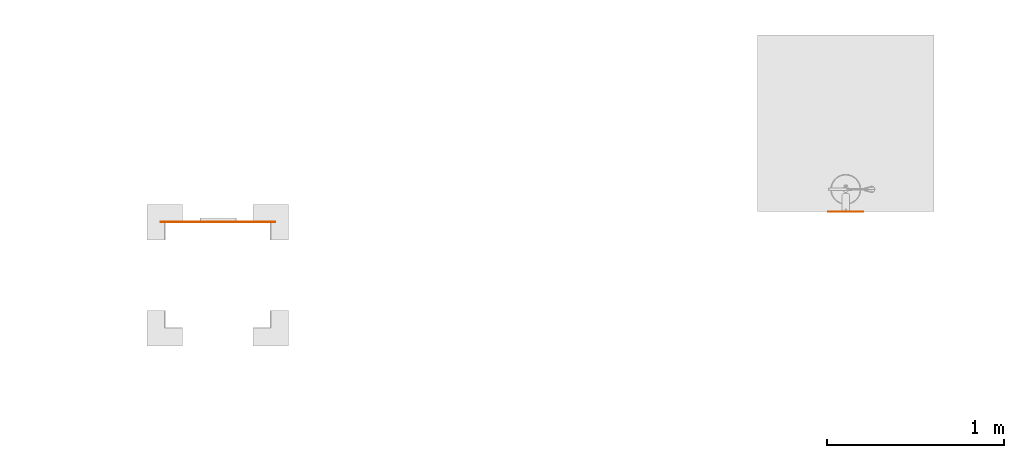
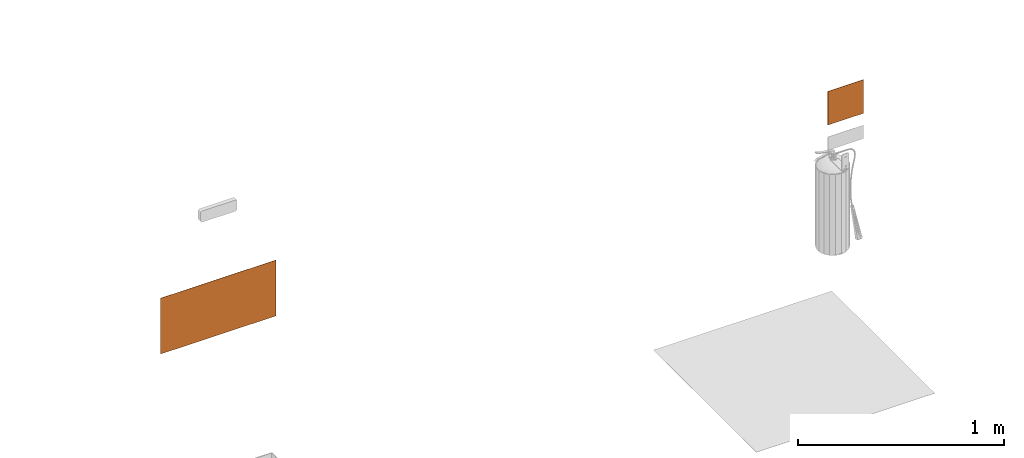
# One storey, part 75 of 119: 2 proxies.
"""IFC2X3 building model written with IfcOpenShell, lengths in metres."""

from ifc_helpers import new_model, entity, si_unit, converted_unit, derived_unit, direction, frame, frame_2d, origin, origin_2d_with_axis, place, context, subcontext, project, spatial, polyline, circle_curve, parameter, trimmed, segment, composite_curve, rectangle, outline, extrude, source, transform, mapped, material, material_list, type_object, type_shapes, element, save


model = new_model("IFC2X3")

# Units and contexts
model_context = context("Model", 3, precision=1e-05, world=origin(), true_north=direction((6.12303176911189e-17, 1.0)))
body_context = subcontext(model_context, "Body", "Model", "MODEL_VIEW")
ifc_project = project(units=[si_unit("LENGTHUNIT", "METRE"), si_unit("AREAUNIT", "SQUARE_METRE"), si_unit("VOLUMEUNIT", "CUBIC_METRE"), converted_unit("PLANEANGLEUNIT", "DEGREE", entity("IfcRatioMeasure", 0.0174532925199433), si_unit("PLANEANGLEUNIT", "RADIAN"), dimensions=[0, 0, 0, 0, 0, 0, 0]), si_unit("MASSUNIT", "GRAM", prefix="KILO"), derived_unit("MASSDENSITYUNIT", [(si_unit("MASSUNIT", "GRAM", prefix="KILO"), 1), (si_unit("LENGTHUNIT", "METRE"), -3)]), derived_unit("MOMENTOFINERTIAUNIT", [(si_unit("LENGTHUNIT", "METRE"), 4)]), si_unit("TIMEUNIT", "SECOND"), si_unit("FREQUENCYUNIT", "HERTZ"), si_unit("THERMODYNAMICTEMPERATUREUNIT", "DEGREE_CELSIUS"), derived_unit("THERMALTRANSMITTANCEUNIT", [(si_unit("MASSUNIT", "GRAM", prefix="KILO"), 1), (si_unit("THERMODYNAMICTEMPERATUREUNIT", "KELVIN"), -1), (si_unit("TIMEUNIT", "SECOND"), -3)]), derived_unit("VOLUMETRICFLOWRATEUNIT", [(si_unit("LENGTHUNIT", "METRE"), 3), (si_unit("TIMEUNIT", "SECOND"), -1)]), si_unit("ELECTRICCURRENTUNIT", "AMPERE"), si_unit("ELECTRICVOLTAGEUNIT", "VOLT"), si_unit("POWERUNIT", "WATT"), si_unit("FORCEUNIT", "NEWTON", prefix="KILO"), si_unit("ILLUMINANCEUNIT", "LUX"), si_unit("LUMINOUSFLUXUNIT", "LUMEN"), si_unit("LUMINOUSINTENSITYUNIT", "CANDELA"), derived_unit("USERDEFINED", [(si_unit("MASSUNIT", "GRAM", prefix="KILO"), -1), (si_unit("LENGTHUNIT", "METRE"), -2), (si_unit("TIMEUNIT", "SECOND"), 3), (si_unit("LUMINOUSFLUXUNIT", "LUMEN"), 1)]), derived_unit("LINEARVELOCITYUNIT", [(si_unit("LENGTHUNIT", "METRE"), 1), (si_unit("TIMEUNIT", "SECOND"), -1)]), si_unit("PRESSUREUNIT", "PASCAL"), derived_unit("USERDEFINED", [(si_unit("LENGTHUNIT", "METRE"), -2), (si_unit("MASSUNIT", "GRAM", prefix="KILO"), 1), (si_unit("TIMEUNIT", "SECOND"), -2)]), derived_unit("LINEARFORCEUNIT", [(si_unit("MASSUNIT", "GRAM", prefix="KILO"), 1), (si_unit("LENGTHUNIT", "METRE"), 1), (si_unit("TIMEUNIT", "SECOND"), -2), (si_unit("LENGTHUNIT", "METRE"), -1)]), derived_unit("PLANARFORCEUNIT", [(si_unit("MASSUNIT", "GRAM", prefix="KILO"), 1), (si_unit("LENGTHUNIT", "METRE"), 1), (si_unit("TIMEUNIT", "SECOND"), -2), (si_unit("LENGTHUNIT", "METRE"), -2)])], contexts=[model_context])

# Site, building, storey
site_placement = place(None, origin())
site = spatial("IfcSite", under=ifc_project, at=site_placement, Name="Default", CompositionType="ELEMENT")
building_placement = place(site_placement, origin())
building = spatial("IfcBuilding", under=site, at=building_placement, CompositionType="ELEMENT")
storey_placement = place(building_placement, origin())
storey = spatial("IfcBuildingStorey", under=building, at=storey_placement, Name="PAV. 01 - TÉRREO", CompositionType="ELEMENT", Elevation=0.0)

# Proxies
ifc_material_1 = material(Name="Plastico branco")
ifc_material_2 = material(Name="Plastico vermelho")
ifc_material_list_1 = material_list([ifc_material_1, ifc_material_2])
building_element_proxy_type_1 = type_object("IfcBuildingElementProxyType", Name="Sinalização de equipamentos - E05 - Extintor de incêndio:Distância 08m", PredefinedType="NOTDEFINED", material=ifc_material_1)
shared_shape_1 = source(origin(), body_context, "Body", "SweptSolid", [
    extrude(outline(composite_curve([segment(polyline([(-0.039533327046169, -0.0988107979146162), (0.0136590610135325, -0.0988107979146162)]), True, "CONTINUOUS"), segment(polyline([(0.0136590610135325, -0.0988107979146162), (0.0136590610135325, -0.0150548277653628)]), True, "CONTINUOUS"), segment(polyline([(0.0136590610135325, -0.0150548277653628), (0.0132403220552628, -0.0112272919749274)]), True, "CONTINUOUS"), segment(polyline([(0.0132403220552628, -0.0112272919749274), (0.0119841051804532, -0.00798860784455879)]), True, "CONTINUOUS"), segment(polyline([(0.0119841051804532, -0.00798860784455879), (0.00989041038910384, -0.00533877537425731)]), True, "CONTINUOUS"), segment(polyline([(0.00989041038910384, -0.00533877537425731), (0.00695923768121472, -0.00327779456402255)]), True, "CONTINUOUS"), segment(polyline([(0.00695923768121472, -0.00327779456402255), (0.00319058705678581, -0.00180566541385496)]), True, "CONTINUOUS"), segment(polyline([(0.00319058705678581, -0.00180566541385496), (-0.00141554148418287, -0.000922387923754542)]), True, "CONTINUOUS"), segment(polyline([(-0.00141554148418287, -0.000922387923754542), (-0.00685914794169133, -0.000627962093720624)]), True, "CONTINUOUS"), segment(polyline([(-0.00685914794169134, -0.000627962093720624), (-0.00685914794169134, 0.00837547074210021)]), True, "CONTINUOUS"), segment(polyline([(-0.00685914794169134, 0.00837547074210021), (0.000568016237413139, 0.00837547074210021)]), True, "CONTINUOUS"), segment(polyline([(0.000568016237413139, 0.00837547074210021), (0.021500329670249, -0.0075875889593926)]), True, "CONTINUOUS"), segment(polyline([(0.021500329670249, -0.0075875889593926), (0.021500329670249, -0.0104328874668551)]), True, "CONTINUOUS"), segment(polyline([(0.021500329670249, -0.0104328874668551), (0.0245059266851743, -0.0104328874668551)]), True, "CONTINUOUS"), segment(polyline([(0.0245059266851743, -0.0104328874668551), (0.0245059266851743, -0.00811335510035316)]), True, "CONTINUOUS"), segment(polyline([(0.0245059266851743, -0.00811335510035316), (0.0243642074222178, -0.00545038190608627)]), True, "CONTINUOUS"), segment(polyline([(0.0243642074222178, -0.00545038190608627), (0.0239570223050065, -0.0032112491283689)]), True, "CONTINUOUS"), segment(polyline([(0.0239570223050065, -0.0032112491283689), (0.0233113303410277, -0.00132119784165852)]), True, "CONTINUOUS"), segment(polyline([(0.0233113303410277, -0.00132119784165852), (0.0224540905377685, 0.00029453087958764)]), True, "CONTINUOUS"), segment(polyline([(0.0224540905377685, 0.00029453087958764), (0.0214122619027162, 0.00171069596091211)]), True, "CONTINUOUS"), segment(polyline([(0.0214122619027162, 0.00171069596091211), (0.0202128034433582, 0.00300205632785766)]), True, "CONTINUOUS"), segment(polyline([(0.0202128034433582, 0.00300205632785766), (0.0188826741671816, 0.00424337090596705)]), True, "CONTINUOUS"), segment(polyline([(0.0188826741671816, 0.00424337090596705), (0.0144021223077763, 0.00811180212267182)]), True, "CONTINUOUS"), segment(polyline([(0.0144021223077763, 0.00811180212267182), (0.0113518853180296, 0.0106145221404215)]), True, "CONTINUOUS"), segment(polyline([(0.0113518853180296, 0.0106145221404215), (0.0085825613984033, 0.0127576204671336)]), True, "CONTINUOUS"), segment(polyline([(0.0085825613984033, 0.0127576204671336), (0.00738733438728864, 0.0136170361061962)]), True, "CONTINUOUS"), segment(polyline([(0.00738733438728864, 0.0136170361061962), (0.00631521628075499, 0.0143235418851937)]), True, "CONTINUOUS"), segment(polyline([(0.00631521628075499, 0.0143235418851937), (0.00532850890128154, 0.0148903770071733)]), True, "CONTINUOUS"), segment(polyline([(0.00532850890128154, 0.0148903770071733), (0.00438926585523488, 0.0153309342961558)]), True, "CONTINUOUS"), segment(polyline([(0.00438926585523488, 0.0153309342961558), (0.00345954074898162, 0.0156586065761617)]), True, "CONTINUOUS"), segment(polyline([(0.00345954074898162, 0.0156586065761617), (0.00250138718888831, 0.0158867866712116)]), True, "CONTINUOUS"), segment(polyline([(0.00250138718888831, 0.0158867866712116), (0.00144087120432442, 0.0160289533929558)]), True, "CONTINUOUS"), segment(polyline([(0.00144087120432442, 0.0160289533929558), (-0.000108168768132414, 0.0160993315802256)]), True, "CONTINUOUS"), segment(polyline([(-0.000108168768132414, 0.0160993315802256), (-0.00685914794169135, 0.0160831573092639)]), True, "CONTINUOUS"), segment(polyline([(-0.00685914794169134, 0.0160831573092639), (-0.00685914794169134, 0.0213863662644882)]), True, "CONTINUOUS"), segment(polyline([(-0.00685914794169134, 0.0213863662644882), (-0.0177728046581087, 0.0213863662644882)]), True, "CONTINUOUS"), segment(polyline([(-0.0177728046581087, 0.0213863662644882), (-0.0177728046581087, 0.0160831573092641)]), True, "CONTINUOUS"), segment(polyline([(-0.0177728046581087, 0.0160831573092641), (-0.0288467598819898, 0.0160831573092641)]), True, "CONTINUOUS"), segment(trimmed(circle_curve(frame_2d((-0.0288467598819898, 0.0122293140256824), x_axis=(-1.0, 0.0)), 0.00385384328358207), [parameter(270.0)], [parameter(90.0000000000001)], True, "PARAMETER"), True, "CONTINUOUS"), segment(polyline([(-0.0288467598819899, 0.00837547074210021), (-0.0190151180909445, 0.00837547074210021)]), True, "CONTINUOUS"), segment(polyline([(-0.0190151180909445, 0.00837547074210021), (-0.0190151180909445, -0.000627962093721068)]), True, "CONTINUOUS"), segment(polyline([(-0.0190151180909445, -0.000627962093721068), (-0.024458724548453, -0.000922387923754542)]), True, "CONTINUOUS"), segment(polyline([(-0.024458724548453, -0.000922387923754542), (-0.0290648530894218, -0.00180566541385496)]), True, "CONTINUOUS"), segment(polyline([(-0.0290648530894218, -0.00180566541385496), (-0.0328335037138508, -0.00327779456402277)]), True, "CONTINUOUS"), segment(polyline([(-0.0328335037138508, -0.00327779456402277), (-0.03576467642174, -0.00533877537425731)]), True, "CONTINUOUS"), segment(polyline([(-0.03576467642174, -0.00533877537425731), (-0.0378583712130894, -0.00798860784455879)]), True, "CONTINUOUS"), segment(polyline([(-0.0378583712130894, -0.00798860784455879), (-0.0391145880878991, -0.0112272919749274)]), True, "CONTINUOUS"), segment(polyline([(-0.0391145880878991, -0.0112272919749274), (-0.039533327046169, -0.0150548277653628)]), True, "CONTINUOUS"), segment(polyline([(-0.039533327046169, -0.0150548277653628), (-0.039533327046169, -0.0988107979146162)]), True, "CONTINUOUS")], self_intersect=False)), frame((-0.0129371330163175, -0.0011, 1.94006139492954), z_axis=(0.0, 1.0, 0.0), x_axis=(-1.0, 0.0, 0.0)), (0.0, 0.0, 1.0), 0.0011),
    extrude(rectangle(XDim=0.001, YDim=0.179, at=origin_2d_with_axis()), frame((0.0, -0.0005, 1.8105), z_axis=(0.0, 0.0, 1.0), x_axis=(0.0, 1.0, 0.0)), (0.0, 0.0, 1.0), 0.179),
    extrude(outline(polyline([(-0.100000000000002, -0.1), (0.100000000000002, -0.1), (0.100000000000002, 0.1), (-0.100000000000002, 0.1), (-0.100000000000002, -0.1)]), holes=[polyline([(-0.0895000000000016, -0.0895000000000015), (-0.0895000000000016, 0.0894999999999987), (0.0894999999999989, 0.0894999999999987), (0.0894999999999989, -0.0895000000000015), (-0.0895000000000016, -0.0895000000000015)])]), frame((0.0, -0.001, 1.9), z_axis=(0.0, 1.0, 0.0), x_axis=(0.0, 0.0, -1.0)), (0.0, 0.0, 1.0), 0.001),
])
type_shapes(building_element_proxy_type_1, [shared_shape_1])
proxy_1_placement = place(storey_placement, frame((32.2240605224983, 32.2871958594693, 0.0), z_axis=(0.0, 0.0, 1.0), x_axis=(-1.0, 0.0, 0.0)))
element("IfcBuildingElementProxy", 1, at=proxy_1_placement, inside=storey, type_object=building_element_proxy_type_1, material=ifc_material_list_1, Name="Sinalização de equipamentos - E05 - Extintor de incêndio:Distância 08m", ObjectType="Sinalização de equipamentos - E05 - Extintor de incêndio:Distância 08m", context=body_context, shape_type="MappedRepresentation", body=[
    mapped(shared_shape_1, transform((0.0, 0.0, 0.0), scale=1.0)),
])
ifc_material_3 = material(Name="Plastico Verde")
ifc_material_list_2 = material_list([ifc_material_1, ifc_material_3])
building_element_proxy_type_2 = type_object("IfcBuildingElementProxyType", Name="Sinalização de orientação - S01 - Indicação do sentido da saída de emergência direita:Distância 20m", PredefinedType="NOTDEFINED", material=ifc_material_1)
shared_shape_2 = source(origin(), body_context, "Body", "SweptSolid", [
    extrude(outline(polyline([(0.0207163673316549, 0.0565745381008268), (0.0192937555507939, 0.0558213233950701), (0.0182981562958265, 0.0537455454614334), (0.0176533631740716, 0.05062305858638), (0.0172831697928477, 0.0467297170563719), (0.0171113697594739, 0.0423413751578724), (0.017013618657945, 0.0246825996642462), (0.016779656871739, 0.0169123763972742), (0.0165425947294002, 0.0132568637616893), (0.0161992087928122, 0.00973142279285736), (0.0157297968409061, 0.00631880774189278), (0.0151146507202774, 0.00300175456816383), (0.014323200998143, -0.000270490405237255), (0.0132915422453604, -0.00365146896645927), (0.0119493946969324, -0.00731437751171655), (0.0102264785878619, -0.0114324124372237), (0.00805251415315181, -0.0161787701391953), (0.00535722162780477, -0.021726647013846), (-0.00655942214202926, -0.0449113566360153), (0.0151479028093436, -0.0448486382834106), (0.0162113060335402, -0.0448086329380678), (0.0168856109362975, -0.044755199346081), (0.0172986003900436, -0.0446864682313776), (0.0175780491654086, -0.0446005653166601), (0.0178325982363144, -0.0444838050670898), (0.0181107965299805, -0.0442854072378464), (0.0184494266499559, -0.0439473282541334), (0.0188852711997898, -0.0434115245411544), (0.0194551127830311, -0.0426199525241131), (0.0201957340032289, -0.0415145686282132), (0.02233644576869, -0.038130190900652), (0.0366826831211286, -0.0144090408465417), (0.0384781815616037, -0.0123032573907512), (0.0403115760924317, -0.0106629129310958), (0.0421591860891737, -0.00945921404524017), (0.0439973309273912, -0.00866336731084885), (0.0458023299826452, -0.00824657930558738), (0.0475505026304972, -0.00818005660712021), (0.0492181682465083, -0.0084350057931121), (0.0507816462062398, -0.00898263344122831), (0.0522172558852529, -0.00979414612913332), (0.0535013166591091, -0.0108407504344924), (0.0546101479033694, -0.0120936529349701), (0.0555200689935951, -0.0135240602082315), (0.0562073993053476, -0.0151031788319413), (0.0566484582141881, -0.0168022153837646), (0.0568195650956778, -0.0185923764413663), (0.056697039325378, -0.0204448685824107), (0.05625720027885, -0.0223308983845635), (0.0554763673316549, -0.0242216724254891), (0.0453254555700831, -0.041701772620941), (0.0385619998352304, -0.0528181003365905), (0.0340098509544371, -0.0591684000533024), (0.0304928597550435, -0.0623504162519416), (0.0268473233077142, -0.0639471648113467), (0.0224195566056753, -0.0649381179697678), (0.017233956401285, -0.0655003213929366), (0.0113618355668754, -0.0657553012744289), (-0.037144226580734, -0.0658268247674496), (-0.0423005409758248, -0.0657291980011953), (-0.0468104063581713, -0.0652500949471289), (-0.0509445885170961, -0.0640828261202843), (-0.0549738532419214, -0.0619207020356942), (-0.0591689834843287, -0.0584570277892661), (-0.0638710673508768, -0.0533629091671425), (-0.0696516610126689, -0.0462366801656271), (-0.0869232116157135, -0.0242216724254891), (-0.116627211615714, -0.0242216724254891), (-0.116627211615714, -0.142206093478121), (0.0709104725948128, -0.142206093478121), (0.0709104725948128, 0.0483918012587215), (0.079991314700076, 0.0483918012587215), (0.113187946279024, 0.089405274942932), (0.0709104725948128, 0.089405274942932), (0.0709104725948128, 0.127125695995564), (0.0916666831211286, 0.148247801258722), (-0.040088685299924, 0.148247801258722), (-0.0618095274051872, 0.127125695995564), (-0.0903160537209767, 0.127125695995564), (-0.0639958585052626, 0.148247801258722), (-0.0964364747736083, 0.148247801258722), (-0.116627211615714, 0.127125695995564), (-0.116627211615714, -0.00303304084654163), (-0.0833215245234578, -0.00302782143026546), (-0.0804684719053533, -0.00311548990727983), (-0.0781743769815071, -0.00338372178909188), (-0.0762495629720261, -0.00392019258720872), (-0.0745043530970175, -0.00481257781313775), (-0.0727491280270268, -0.00614851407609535), (-0.0708315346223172, -0.00799040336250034), (-0.0687006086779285, -0.0103319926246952), (-0.0663224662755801, -0.0131554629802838), (-0.0536600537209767, -0.0289117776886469), (-0.0361636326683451, 0.00694590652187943), (-0.0903160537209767, 0.117978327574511), (-0.0618095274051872, 0.117978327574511), (-0.0106507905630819, 0.0212490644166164), (-0.00655942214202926, 0.0565745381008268), (-0.00621671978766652, 0.0609089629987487), (-0.00577896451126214, 0.0647408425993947), (-0.00516938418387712, 0.0680941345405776), (-0.00431120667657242, 0.0709927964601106), (-0.00312765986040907, 0.0734607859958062), (-0.00154197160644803, 0.0755220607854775), (0.00052263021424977, 0.0772005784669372), (0.00314291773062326, 0.0785202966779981), (0.00639566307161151, 0.0795051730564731), (0.0103576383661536, 0.0801791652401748), (0.0151056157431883, 0.0805662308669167), (0.0207163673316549, 0.0806903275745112), (0.0916666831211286, 0.0806903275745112), (0.0709104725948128, 0.0565745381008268), (0.0207163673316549, 0.0565745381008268)]), holes=[composite_curve([segment(trimmed(circle_curve(frame_2d((-0.0480718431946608, -0.0930431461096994), x_axis=(-1.0, 0.0)), 0.0222863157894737), [parameter(180.0)], [parameter(0.0)], True, "PARAMETER"), False, "CONTINUOUS"), segment(trimmed(circle_curve(frame_2d((-0.0480718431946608, -0.0930431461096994), x_axis=(-1.0, 0.0)), 0.0222863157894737), [parameter(3.56222124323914e-13)], [parameter(180.0)], True, "PARAMETER"), False, "CONTINUOUS")], self_intersect=False)]), frame((-0.18787689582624, -0.00110000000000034, 1.9685208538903), z_axis=(0.0, -1.0, 0.0), x_axis=(-1.0, 0.0, 0.0)), (0.0, 0.0, -1.0), 0.0011),
    extrude(outline(polyline([(-0.165500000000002, -0.323500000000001), (0.165500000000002, -0.323500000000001), (0.165500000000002, 0.323500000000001), (-0.165500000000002, 0.323500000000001), (-0.165500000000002, -0.323500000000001)]), holes=[polyline([(-0.158000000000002, -0.316000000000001), (-0.158000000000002, 0.315999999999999), (0.157999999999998, 0.315999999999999), (0.157999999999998, -0.316000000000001), (-0.158000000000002, -0.316000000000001)])]), frame((0.0, -0.0011, 1.9655), z_axis=(0.0, 1.0, 0.0), x_axis=(0.0, 0.0, -1.0)), (0.0, 0.0, 1.0), 0.0011),
    extrude(rectangle(XDim=0.001, YDim=0.632, at=origin_2d_with_axis()), frame((0.0, -0.0005, 1.8075), z_axis=(0.0, 0.0, 1.0), x_axis=(0.0, 1.0, 0.0)), (0.0, 0.0, 1.0), 0.316000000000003),
    extrude(outline(polyline([(-0.0275766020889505, -0.107902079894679), (0.107902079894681, -0.107902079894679), (0.107902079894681, 0.027576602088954), (0.048183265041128, 0.0872954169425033), (0.0481832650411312, -0.0031648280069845), (-0.0777225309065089, 0.122740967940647), (-0.122740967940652, 0.0777225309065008), (0.00316482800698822, -0.0481832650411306), (-0.0872954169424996, -0.0481832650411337), (-0.0275766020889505, -0.107902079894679)])), frame((0.141749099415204, -0.0011, 1.9655), z_axis=(0.0, 1.0, 0.0), x_axis=(0.707106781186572, 0.0, -0.707106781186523)), (0.0, 0.0, 1.0), 0.0011),
])
type_shapes(building_element_proxy_type_2, [shared_shape_2])
proxy_2_placement = place(storey_placement, frame((28.6738470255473, 32.2286443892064, 0.0), z_axis=(0.0, 0.0, 1.0), x_axis=(-1.0, 0.0, 0.0)))
element("IfcBuildingElementProxy", 2, at=proxy_2_placement, inside=storey, type_object=building_element_proxy_type_2, material=ifc_material_list_2, Name="Sinalização de orientação - S01 - Indicação do sentido da saída de emergência direita:Distância 20m", ObjectType="Sinalização de orientação - S01 - Indicação do sentido da saída de emergência direita:Distância 20m", context=body_context, shape_type="MappedRepresentation", body=[
    mapped(shared_shape_2, transform((0.0, 0.0, 0.0), scale=1.0)),
])

save(model, "model.ifc")
